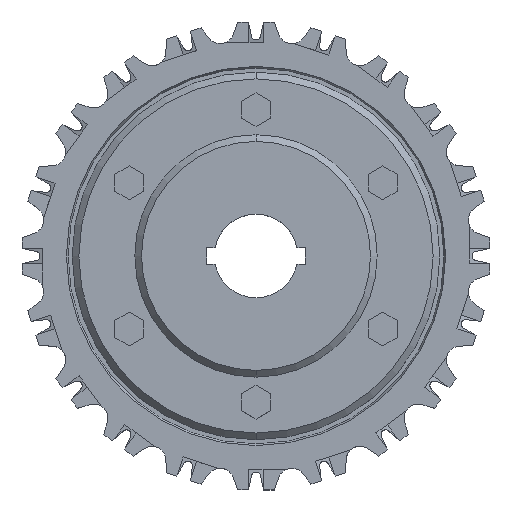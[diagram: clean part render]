
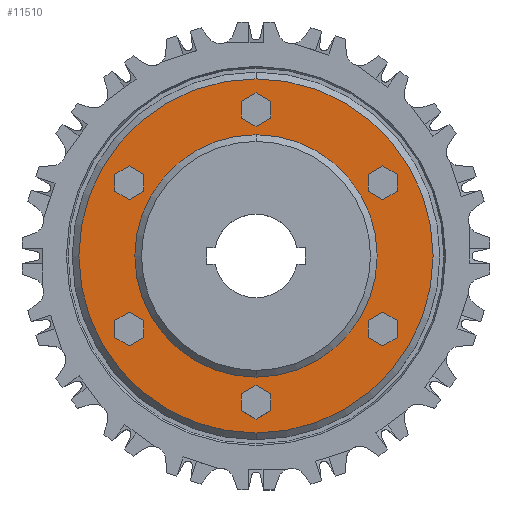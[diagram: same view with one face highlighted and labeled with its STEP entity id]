
A CAD part, top view. The second image highlights one B-rep face of the part: STEP entity #11510.
In plain terms, the highlighted planar face has unit normal (0, 0, 1) as drawn and (0, 1, 0) by its records, which use the part's own axes.
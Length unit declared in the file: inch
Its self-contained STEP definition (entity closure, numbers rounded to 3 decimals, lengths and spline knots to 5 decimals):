
#11006=CARTESIAN_POINT('',(0.,0.095,0.));
#11007=DIRECTION('',(0.,1.,0.));
#11008=DIRECTION('',(1.,0.,0.));
#11009=AXIS2_PLACEMENT_3D('',#11006,#11007,#11008);
#11016=CARTESIAN_POINT('',(0.,0.095,0.));
#11017=DIRECTION('',(0.,-1.,0.));
#11018=DIRECTION('',(1.,0.,0.));
#11019=AXIS2_PLACEMENT_3D('',#11016,#11017,#11018);
#11021=CARTESIAN_POINT('',(0.,0.095,0.));
#11022=DIRECTION('',(0.,-1.,0.));
#11023=DIRECTION('',(-1.,0.,0.));
#11024=AXIS2_PLACEMENT_3D('',#11021,#11022,#11023);
#11026=CARTESIAN_POINT('',(-2.188,0.095,0.));
#11027=DIRECTION('',(0.,-1.,0.));
#11028=DIRECTION('',(1.,0.,0.));
#11029=AXIS2_PLACEMENT_3D('',#11026,#11027,#11028);
#11031=CARTESIAN_POINT('',(-2.188,0.095,0.));
#11032=DIRECTION('',(0.,-1.,0.));
#11033=DIRECTION('',(-1.,0.,0.));
#11034=AXIS2_PLACEMENT_3D('',#11031,#11032,#11033);
#11036=CARTESIAN_POINT('',(-1.094,0.095,-1.89486));
#11037=DIRECTION('',(0.,-1.,0.));
#11038=DIRECTION('',(0.5,0.,0.866));
#11039=AXIS2_PLACEMENT_3D('',#11036,#11037,#11038);
#11041=CARTESIAN_POINT('',(-1.094,0.095,-1.89486));
#11042=DIRECTION('',(0.,-1.,0.));
#11043=DIRECTION('',(-0.5,0.,-0.866));
#11044=AXIS2_PLACEMENT_3D('',#11041,#11042,#11043);
#11046=CARTESIAN_POINT('',(1.094,0.095,-1.89486));
#11047=DIRECTION('',(0.,-1.,0.));
#11048=DIRECTION('',(-0.5,0.,0.866));
#11049=AXIS2_PLACEMENT_3D('',#11046,#11047,#11048);
#11051=CARTESIAN_POINT('',(1.094,0.095,-1.89486));
#11052=DIRECTION('',(0.,-1.,0.));
#11053=DIRECTION('',(0.5,0.,-0.866));
#11054=AXIS2_PLACEMENT_3D('',#11051,#11052,#11053);
#11056=CARTESIAN_POINT('',(2.188,0.095,0.));
#11057=DIRECTION('',(0.,-1.,0.));
#11058=DIRECTION('',(-1.,0.,0.));
#11059=AXIS2_PLACEMENT_3D('',#11056,#11057,#11058);
#11061=CARTESIAN_POINT('',(2.188,0.095,0.));
#11062=DIRECTION('',(0.,-1.,0.));
#11063=DIRECTION('',(1.,0.,0.));
#11064=AXIS2_PLACEMENT_3D('',#11061,#11062,#11063);
#11066=CARTESIAN_POINT('',(1.094,0.095,1.89486));
#11067=DIRECTION('',(0.,-1.,0.));
#11068=DIRECTION('',(-0.5,0.,-0.866));
#11069=AXIS2_PLACEMENT_3D('',#11066,#11067,#11068);
#11071=CARTESIAN_POINT('',(1.094,0.095,1.89486));
#11072=DIRECTION('',(0.,-1.,0.));
#11073=DIRECTION('',(0.5,0.,0.866));
#11074=AXIS2_PLACEMENT_3D('',#11071,#11072,#11073);
#11076=CARTESIAN_POINT('',(-1.094,0.095,1.89486));
#11077=DIRECTION('',(0.,-1.,0.));
#11078=DIRECTION('',(0.5,0.,-0.866));
#11079=AXIS2_PLACEMENT_3D('',#11076,#11077,#11078);
#11081=CARTESIAN_POINT('',(-1.094,0.095,1.89486));
#11082=DIRECTION('',(0.,-1.,0.));
#11083=DIRECTION('',(-0.5,0.,0.866));
#11084=AXIS2_PLACEMENT_3D('',#11081,#11082,#11083);
#11188=CARTESIAN_POINT('',(0.,0.095,0.));
#11189=DIRECTION('',(0.,1.,0.));
#11190=DIRECTION('',(-1.,0.,0.));
#11191=AXIS2_PLACEMENT_3D('',#11188,#11189,#11190);
#11262=CARTESIAN_POINT('',(1.813,0.095,0.));
#11263=CARTESIAN_POINT('',(-1.813,0.095,0.));
#11264=VERTEX_POINT('',#11262);
#11265=VERTEX_POINT('',#11263);
#11266=CARTESIAN_POINT('',(2.65,0.095,0.));
#11267=CARTESIAN_POINT('',(-2.65,0.095,0.));
#11268=VERTEX_POINT('',#11266);
#11269=VERTEX_POINT('',#11267);
#11278=CARTESIAN_POINT('',(-2.061,0.095,0.));
#11279=CARTESIAN_POINT('',(-2.315,0.095,0.));
#11280=VERTEX_POINT('',#11278);
#11281=VERTEX_POINT('',#11279);
#11310=CARTESIAN_POINT('',(-1.0305,0.095,-1.78488));
#11311=CARTESIAN_POINT('',(-1.1575,0.095,-2.00485));
#11312=VERTEX_POINT('',#11310);
#11313=VERTEX_POINT('',#11311);
#11314=CARTESIAN_POINT('',(1.0305,0.095,-1.78488));
#11315=CARTESIAN_POINT('',(1.1575,0.095,-2.00485));
#11316=VERTEX_POINT('',#11314);
#11317=VERTEX_POINT('',#11315);
#11318=CARTESIAN_POINT('',(2.061,0.095,0.));
#11319=CARTESIAN_POINT('',(2.315,0.095,0.));
#11320=VERTEX_POINT('',#11318);
#11321=VERTEX_POINT('',#11319);
#11322=CARTESIAN_POINT('',(1.0305,0.095,1.78488));
#11323=CARTESIAN_POINT('',(1.1575,0.095,2.00485));
#11324=VERTEX_POINT('',#11322);
#11325=VERTEX_POINT('',#11323);
#11326=CARTESIAN_POINT('',(-1.0305,0.095,1.78488));
#11327=CARTESIAN_POINT('',(-1.1575,0.095,2.00485));
#11328=VERTEX_POINT('',#11326);
#11329=VERTEX_POINT('',#11327);
#11458=CARTESIAN_POINT('',(0.,0.095,0.));
#11459=DIRECTION('',(0.,1.,0.));
#11460=DIRECTION('',(1.,0.,0.));
#11461=AXIS2_PLACEMENT_3D('',#11458,#11459,#11460);
#11462=PLANE('',#11461);
#11463=ORIENTED_EDGE('',*,*,#11448,.F.);
#11465=ORIENTED_EDGE('',*,*,#11464,.F.);
#11466=EDGE_LOOP('',(#11463,#11465));
#11467=FACE_OUTER_BOUND('',#11466,.F.);
#11469=ORIENTED_EDGE('',*,*,#11468,.F.);
#11471=ORIENTED_EDGE('',*,*,#11470,.F.);
#11472=EDGE_LOOP('',(#11469,#11471));
#11473=FACE_BOUND('',#11472,.F.);
#11475=ORIENTED_EDGE('',*,*,#11474,.F.);
#11477=ORIENTED_EDGE('',*,*,#11476,.F.);
#11478=EDGE_LOOP('',(#11475,#11477));
#11479=FACE_BOUND('',#11478,.F.);
#11481=ORIENTED_EDGE('',*,*,#11480,.F.);
#11483=ORIENTED_EDGE('',*,*,#11482,.F.);
#11484=EDGE_LOOP('',(#11481,#11483));
#11485=FACE_BOUND('',#11484,.F.);
#11487=ORIENTED_EDGE('',*,*,#11486,.F.);
#11489=ORIENTED_EDGE('',*,*,#11488,.F.);
#11490=EDGE_LOOP('',(#11487,#11489));
#11491=FACE_BOUND('',#11490,.F.);
#11493=ORIENTED_EDGE('',*,*,#11492,.F.);
#11495=ORIENTED_EDGE('',*,*,#11494,.F.);
#11496=EDGE_LOOP('',(#11493,#11495));
#11497=FACE_BOUND('',#11496,.F.);
#11499=ORIENTED_EDGE('',*,*,#11498,.F.);
#11501=ORIENTED_EDGE('',*,*,#11500,.F.);
#11502=EDGE_LOOP('',(#11499,#11501));
#11503=FACE_BOUND('',#11502,.F.);
#11505=ORIENTED_EDGE('',*,*,#11504,.F.);
#11507=ORIENTED_EDGE('',*,*,#11506,.F.);
#11508=EDGE_LOOP('',(#11505,#11507));
#11509=FACE_BOUND('',#11508,.F.);
#11510=ADVANCED_FACE('',(#11467,#11473,#11479,#11485,#11491,#11497,#11503,
#11509),#11462,.T.);
#11010=CIRCLE('',#11009,2.65);
#11020=CIRCLE('',#11019,1.813);
#11025=CIRCLE('',#11024,1.813);
#11030=CIRCLE('',#11029,0.127);
#11035=CIRCLE('',#11034,0.127);
#11040=CIRCLE('',#11039,0.127);
#11045=CIRCLE('',#11044,0.127);
#11050=CIRCLE('',#11049,0.127);
#11055=CIRCLE('',#11054,0.127);
#11060=CIRCLE('',#11059,0.127);
#11065=CIRCLE('',#11064,0.127);
#11070=CIRCLE('',#11069,0.127);
#11075=CIRCLE('',#11074,0.127);
#11080=CIRCLE('',#11079,0.127);
#11085=CIRCLE('',#11084,0.127);
#11192=CIRCLE('',#11191,2.65);
#11448=EDGE_CURVE('',#11268,#11269,#11010,.T.);
#11464=EDGE_CURVE('',#11269,#11268,#11192,.T.);
#11468=EDGE_CURVE('',#11264,#11265,#11020,.T.);
#11470=EDGE_CURVE('',#11265,#11264,#11025,.T.);
#11474=EDGE_CURVE('',#11280,#11281,#11030,.T.);
#11476=EDGE_CURVE('',#11281,#11280,#11035,.T.);
#11480=EDGE_CURVE('',#11312,#11313,#11040,.T.);
#11482=EDGE_CURVE('',#11313,#11312,#11045,.T.);
#11486=EDGE_CURVE('',#11316,#11317,#11050,.T.);
#11488=EDGE_CURVE('',#11317,#11316,#11055,.T.);
#11492=EDGE_CURVE('',#11320,#11321,#11060,.T.);
#11494=EDGE_CURVE('',#11321,#11320,#11065,.T.);
#11498=EDGE_CURVE('',#11324,#11325,#11070,.T.);
#11500=EDGE_CURVE('',#11325,#11324,#11075,.T.);
#11504=EDGE_CURVE('',#11328,#11329,#11080,.T.);
#11506=EDGE_CURVE('',#11329,#11328,#11085,.T.);
